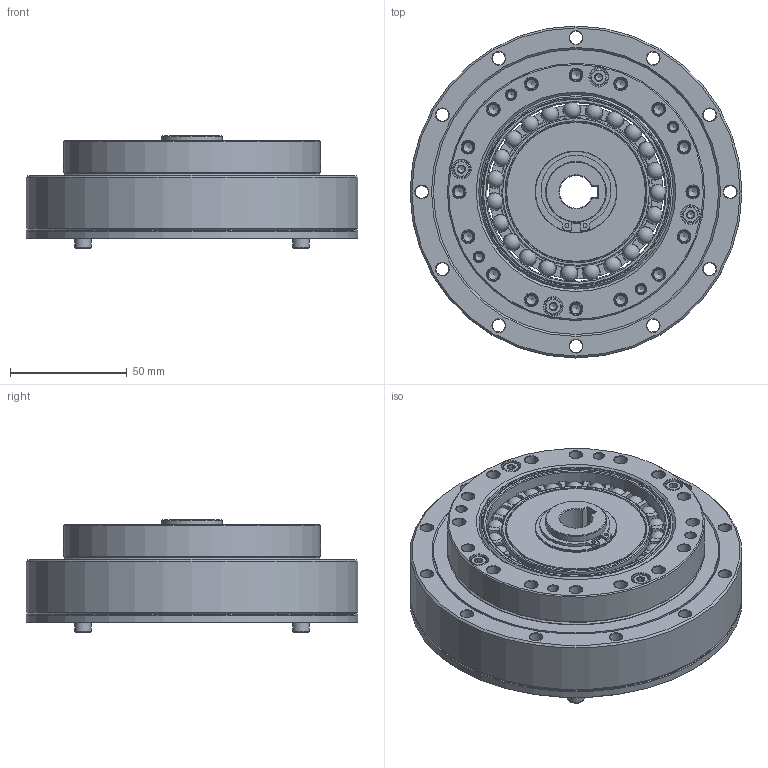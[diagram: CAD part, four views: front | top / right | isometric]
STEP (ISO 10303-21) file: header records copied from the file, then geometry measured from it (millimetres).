
FILE_DESCRIPTION(/* description */ (''),/* implementation_level */ '2;1');
FILE_NAME(/* name */ 'LHG-32-XX-U-II-φ14.stp',/* time_stamp */ '2023-07-08T16:09:12+08:00',/* author */ (''),/* organization */ (''),/* preprocessor_version */ 'ST-DEVELOPER v16.7',/* originating_system */ 'SIEMENS PLM Software NX 12.0',/* authorisation */ '');
FILE_SCHEMA (('AUTOMOTIVE_DESIGN { 1 0 10303 214 3 1 1 1 }'));
Length unit declared in the file: millimetre
Products named in the file (18): EB608012-32KC-46; EB608012-32KE-01; TC-110x122x6; O-120x1.5; O-90x1; GB-T70.1-2000,M4x10; GB-T70.1-2000,M4x16; 铜垫圈26.5x35x1; 轴用弹性挡圈φ26; CS-32-XX-03; CS-32-00-02; CS-32-00-04; CSG-32-00-01-K14; 柔轮LHT-32; 刚轮LHT-32; EB608012-32KE; 交叉轴承LHT-32; LHG-32-XX-U-II-φ14
Assembly tree (23 placements, depth 3):
  LHG-32-XX-U-II-φ14
    交叉轴承LHT-32
      TC-110x122x6
    刚轮LHT-32
    柔轮LHT-32
    EB608012-32KE
      EB608012-32KE-01
      EB608012-32KC-46
    CSG-32-00-01-K14
    CS-32-00-04
    CS-32-00-02
    CS-32-XX-03
    轴用弹性挡圈φ26
    铜垫圈26.5x35x1
    GB-T70.1-2000,M4x16  x4
    GB-T70.1-2000,M4x10  x4
    O-90x1
    O-120x1.5
Bounding box: 142 x 142 x 48 mm (x, y, z)
Volume: 337081.5 mm3; surface area: 190854 mm2
Topology: 47 solids, 47 shells, 964 faces, 2298 edges, 1411 vertices
Faces by surface type: plane 322, cone 292, cylinder 234, torus 91, sphere 23, revolution 2
Full cylindrical faces by diameter (mm): 1.733 x2, 3.3 x16, 3.838 x8, 4.2 x16, 4.5 x16, 5.5 x40, 7 x8, 8 x4, 24.9 x1, 26 x2, 26.5 x4, 34 x1, 35 x1, 53 x2, 60 x2, 63.6 x2, 65.5 x1, 69.5 x1, 74.3 x1, 76.45 x2, 80 x2, 80.92 x1, 82.91 x1, 83.247 x1, 86 x1, 88 x2, 88.5 x1, 90 x1, 92.6 x1, 101 x1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
Entity records: 22692 total; most frequent: CARTESIAN_POINT 5075, DIRECTION 3756, ORIENTED_EDGE 2774, AXIS2_PLACEMENT_3D 1682, EDGE_CURVE 1387, EDGE_LOOP 1344, VERTEX_POINT 1126, FACE_BOUND 1081
